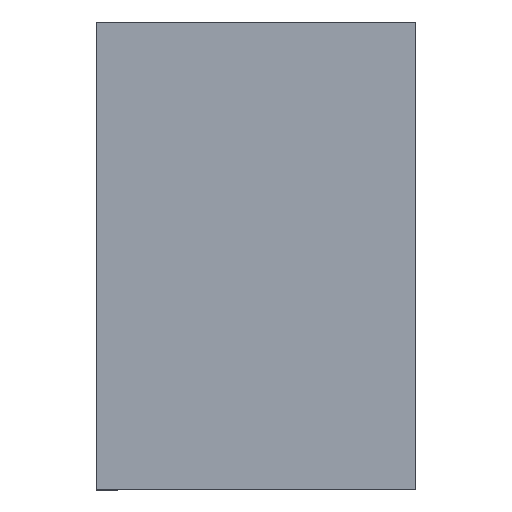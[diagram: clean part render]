
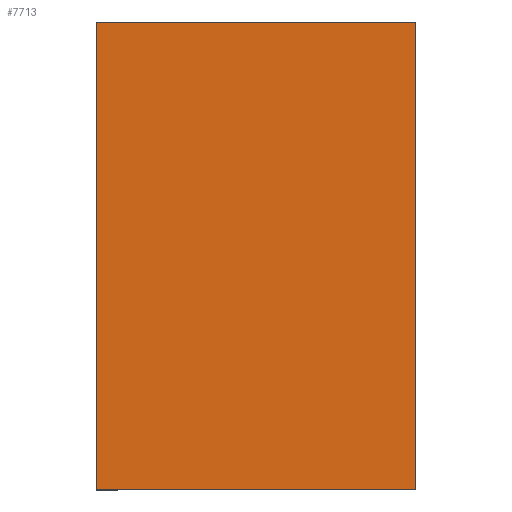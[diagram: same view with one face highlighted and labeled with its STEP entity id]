
A CAD part, front view. The second image highlights one B-rep face of the part: STEP entity #7713.
In plain terms, the highlighted planar face has unit normal (0, -1, 0) as drawn and (0, 0, -1) by its records, which use the part's own axes.
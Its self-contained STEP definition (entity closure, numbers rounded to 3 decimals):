
#7571=DIRECTION('',(-1.,0.,0.));
#7572=VECTOR('',#7571,1500.);
#7573=CARTESIAN_POINT('',(1500.,0.,-1400.));
#7574=LINE('',#7573,#7572);
#7583=DIRECTION('',(0.,1.,0.));
#7584=VECTOR('',#7583,2200.);
#7585=CARTESIAN_POINT('',(0.,0.,-1400.));
#7586=LINE('',#7585,#7584);
#7587=DIRECTION('',(0.,1.,0.));
#7588=VECTOR('',#7587,2200.);
#7589=CARTESIAN_POINT('',(1500.,0.,-1400.));
#7590=LINE('',#7589,#7588);
#7611=DIRECTION('',(-1.,0.,0.));
#7612=VECTOR('',#7611,1500.);
#7613=CARTESIAN_POINT('',(1500.,2200.,-1400.));
#7614=LINE('',#7613,#7612);
#7635=CARTESIAN_POINT('',(1500.,0.,-1400.));
#7636=VERTEX_POINT('',#7635);
#7637=CARTESIAN_POINT('',(0.,0.,-1400.));
#7638=VERTEX_POINT('',#7637);
#7647=CARTESIAN_POINT('',(1500.,2200.,-1400.));
#7648=VERTEX_POINT('',#7647);
#7649=CARTESIAN_POINT('',(0.,2200.,-1400.));
#7650=VERTEX_POINT('',#7649);
#7700=CARTESIAN_POINT('',(1500.,0.,-1400.));
#7701=DIRECTION('',(0.,0.,-1.));
#7702=DIRECTION('',(-1.,0.,0.));
#7703=AXIS2_PLACEMENT_3D('',#7700,#7701,#7702);
#7704=PLANE('',#7703);
#7705=ORIENTED_EDGE('',*,*,#7664,.F.);
#7707=ORIENTED_EDGE('',*,*,#7706,.T.);
#7709=ORIENTED_EDGE('',*,*,#7708,.T.);
#7710=ORIENTED_EDGE('',*,*,#7692,.F.);
#7711=EDGE_LOOP('',(#7705,#7707,#7709,#7710));
#7712=FACE_OUTER_BOUND('',#7711,.F.);
#7713=ADVANCED_FACE('',(#7712),#7704,.T.);
#7664=EDGE_CURVE('',#7636,#7638,#7574,.T.);
#7692=EDGE_CURVE('',#7638,#7650,#7586,.T.);
#7706=EDGE_CURVE('',#7636,#7648,#7590,.T.);
#7708=EDGE_CURVE('',#7648,#7650,#7614,.T.);
